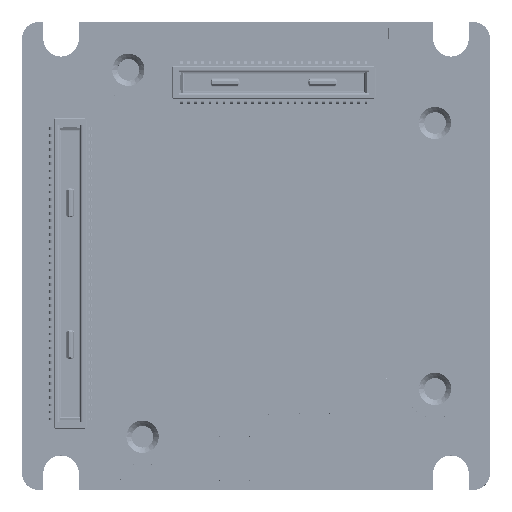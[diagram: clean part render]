
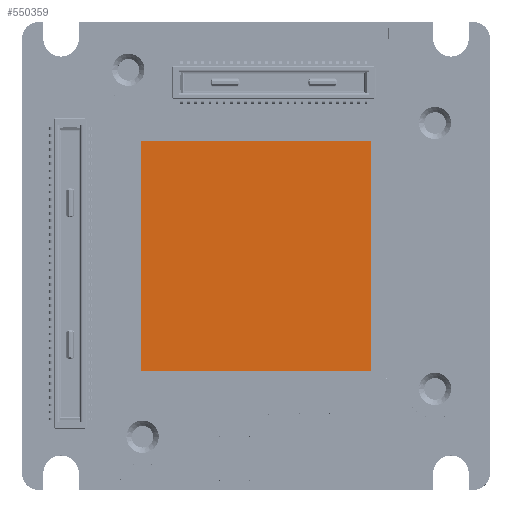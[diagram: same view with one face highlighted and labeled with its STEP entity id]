
A CAD part, top view. The second image highlights one B-rep face of the part: STEP entity #550359.
In plain terms, the highlighted planar face has unit normal (0, 0, 1).
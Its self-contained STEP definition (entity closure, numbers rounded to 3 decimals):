
#7753 = DIRECTION ( 'NONE',  ( 1., 0., 0. ) ) ;
#12382 = VERTEX_POINT ( 'NONE', #393616 ) ;
#15561 = DIRECTION ( 'NONE',  ( 0., -1., 0. ) ) ;
#50468 = CARTESIAN_POINT ( 'NONE',  ( 6.5, 6.5, 6.162 ) ) ;
#114823 = DIRECTION ( 'NONE',  ( 0., -1., 0. ) ) ;
#124083 = CARTESIAN_POINT ( 'NONE',  ( 6.5, -6.5, 6.162 ) ) ;
#124101 = ORIENTED_EDGE ( 'NONE', *, *, #500716, .F. ) ;
#124249 = EDGE_CURVE ( 'NONE', #308511, #519817, #135211, .T. ) ;
#127314 = VECTOR ( 'NONE', #15561, 1000. ) ;
#135211 = LINE ( 'NONE', #529450, #370130 ) ;
#135847 = VECTOR ( 'NONE', #164449, 1000. ) ;
#140746 = CARTESIAN_POINT ( 'NONE',  ( -6.5, -6.5, 6.162 ) ) ;
#160967 = DIRECTION ( 'NONE',  ( 0., 0., -1. ) ) ;
#164449 = DIRECTION ( 'NONE',  ( -1., 0., 0. ) ) ;
#187480 = VERTEX_POINT ( 'NONE', #454876 ) ;
#256487 = PLANE ( 'NONE',  #450956 ) ;
#271165 = DIRECTION ( 'NONE',  ( 0., 1., 0. ) ) ;
#296771 = ORIENTED_EDGE ( 'NONE', *, *, #470651, .F. ) ;
#300772 = ORIENTED_EDGE ( 'NONE', *, *, #124249, .F. ) ;
#308511 = VERTEX_POINT ( 'NONE', #507810 ) ;
#311790 = LINE ( 'NONE', #140746, #381055 ) ;
#324405 = EDGE_LOOP ( 'NONE', ( #296771, #124101, #300772, #542484 ) ) ;
#340654 = CARTESIAN_POINT ( 'NONE',  ( 0., 0., 6.162 ) ) ;
#370130 = VECTOR ( 'NONE', #7753, 1000. ) ;
#381055 = VECTOR ( 'NONE', #271165, 1000. ) ;
#393616 = CARTESIAN_POINT ( 'NONE',  ( 6.5, -6.5, 6.162 ) ) ;
#449906 = CARTESIAN_POINT ( 'NONE',  ( 6.5, 6.5, 6.162 ) ) ;
#450956 = AXIS2_PLACEMENT_3D ( 'NONE', #340654, #160967, #114823 ) ;
#454876 = CARTESIAN_POINT ( 'NONE',  ( -6.5, -6.5, 6.162 ) ) ;
#470651 = EDGE_CURVE ( 'NONE', #12382, #187480, #518198, .T. ) ;
#474144 = FACE_OUTER_BOUND ( 'NONE', #324405, .T. ) ;
#476362 = EDGE_CURVE ( 'NONE', #187480, #308511, #311790, .T. ) ;
#500716 = EDGE_CURVE ( 'NONE', #519817, #12382, #534270, .T. ) ;
#507810 = CARTESIAN_POINT ( 'NONE',  ( -6.5, 6.5, 6.162 ) ) ;
#518198 = LINE ( 'NONE', #124083, #135847 ) ;
#519817 = VERTEX_POINT ( 'NONE', #449906 ) ;
#529450 = CARTESIAN_POINT ( 'NONE',  ( -6.5, 6.5, 6.162 ) ) ;
#534270 = LINE ( 'NONE', #50468, #127314 ) ;
#542484 = ORIENTED_EDGE ( 'NONE', *, *, #476362, .F. ) ;
#550359 = ADVANCED_FACE ( 'NONE', ( #474144 ), #256487, .F. ) ;
